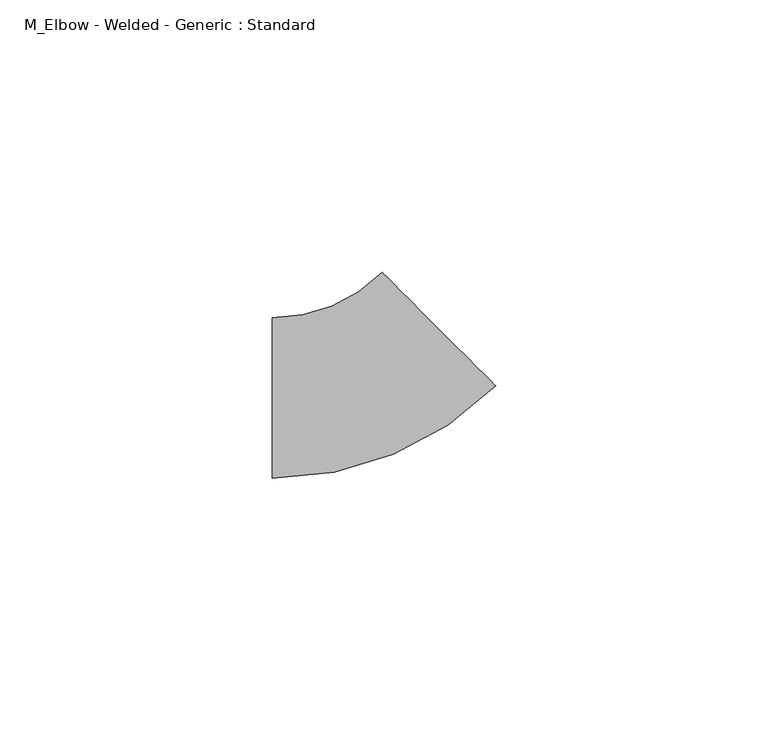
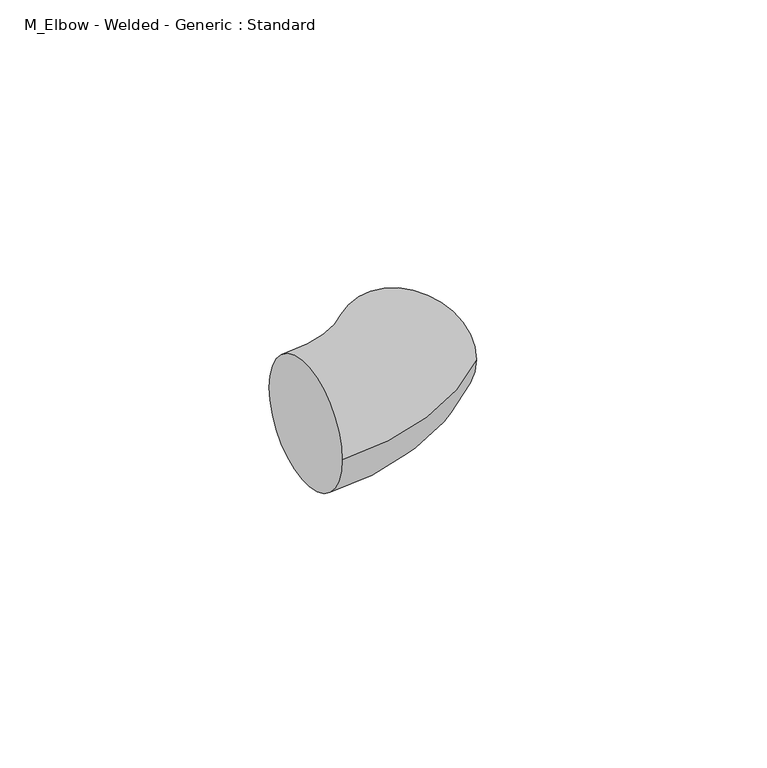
"""IFC4 building model written with IfcOpenShell, lengths in millimetres: pipe fitting geometry, M_Elbow - Welded - Generic : Standard."""

from ifc_helpers import new_model, si_unit, point, frame, origin, place, context, project, spatial, circle_curve, ellipse_curve, trimmed, source, transform, mapped, element, save
from ifc_brep_helpers import plane_surface, revolved_surface, advanced_brep


def m_elbow_welded_generic_standard_439a4a1b(model_context):
    return source(origin(), model_context, "Body", "AdvancedBrep", [
        advanced_brep(
        [(-17.8917187, -14.7089844, 0.0), (-17.8917187, 14.7089844, 0.0), (23.0521651, 2.250668, 0.0), (2.2503981, 23.0521914, 0.0)],
        [
            (0, 1, circle_curve(frame((-17.8917187, 0.0, 0.0), z_axis=(-1.0, 0.0, 0.0), x_axis=(0.0, 1.0, 0.0)), 14.7089844)),
            (1, 0, circle_curve(frame((-17.8917187, 0.0, 0.0), z_axis=(-1.0, 0.0, 0.0), x_axis=(0.0, 1.0, 0.0)), 14.7089844)),
            (2, 3, circle_curve(frame((12.6512816, 12.6514297, 0.0), z_axis=(0.7071026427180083, 0.7071109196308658, 0.0), x_axis=(-0.7071109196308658, 0.7071026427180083, 0.0)), 14.7089844)),
            (3, 2, circle_curve(frame((12.6512816, 12.6514297, 0.0), z_axis=(0.7071026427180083, 0.7071109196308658, 0.0), x_axis=(-0.7071109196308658, 0.7071026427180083, 0.0)), 14.7089844)),
            (3, 1, circle_curve(frame((-17.8917187, 43.1940725, 0.0), z_axis=(0.0, 0.0, -1.0), x_axis=(0.0, -1.0, 0.0)), 28.4850882)),
            (0, 2, circle_curve(frame((-17.8917187, 43.1940725, 0.0), z_axis=(0.0, 0.0, 1.0), x_axis=(0.0, -1.0, 0.0)), 57.9030569)),
        ],
        [
            plane_surface(frame((-17.8917187, 0.0, 0.0), z_axis=(-1.0, 0.0, 0.0), x_axis=(0.0, 0.0, 1.0))),
            plane_surface(frame((12.6512816, 12.6514297, 0.0), z_axis=(0.7071026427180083, 0.7071109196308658, 0.0), x_axis=(0.0, 0.0, 1.0))),
            revolved_surface(trimmed(ellipse_curve(frame((-17.8917187, 0.0, 0.0), z_axis=(-1.0, 0.0, 0.0), x_axis=(0.0, 1.0, 0.0)), 14.7089844, 14.7089844), [point((-17.8917187, -14.7089844, 0.0))], [point((-17.8917187, 14.7089844, 0.0))], True, "CARTESIAN"), (-17.8917187, 43.1940725, 0.0), (0.0, 0.0, 1.0)),
            revolved_surface(trimmed(ellipse_curve(frame((-17.8917187, 0.0, 0.0), z_axis=(-1.0, 0.0, 0.0), x_axis=(0.0, 1.0, 0.0)), 14.7089844, 14.7089844), [point((-17.8917187, 14.7089844, 0.0))], [point((-17.8917187, -14.7089844, 0.0))], True, "CARTESIAN"), (-17.8917187, 43.1940725, 0.0), (0.0, 0.0, 1.0)),
        ],
        [
            (0, [[1, 2]]),
            (1, [[3, 4]]),
            (2, [[5, -1, 6, -4]]),
            (3, [[-6, -2, -5, -3]]),
        ],
    ),
    ])


if __name__ == "__main__":
    model = new_model("IFC4")
    model_context = context("Model", 3, world=origin())
    ifc_project = project(units=[si_unit("LENGTHUNIT", "METRE", prefix="MILLI")], contexts=[model_context])
    site = spatial("IfcSite", under=ifc_project)
    building = spatial("IfcBuilding", under=site)
    placement = place(None, origin())
    m_elbow_welded_generic_standard_shape = m_elbow_welded_generic_standard_439a4a1b(model_context)
    element("IfcPipeFitting", 1, ObjectType="M_Elbow - Welded - Generic : Standard", at=placement, inside=building, context=model_context, shape_type="MappedRepresentation", body=[
        mapped(m_elbow_welded_generic_standard_shape, transform((0.0, 0.0, 0.0), x_axis=(1.0, 0.0, 0.0), y_axis=(0.0, 1.0, 0.0), z_axis=(0.0, 0.0, 1.0))),
    ])
    save(model, "model.ifc")
